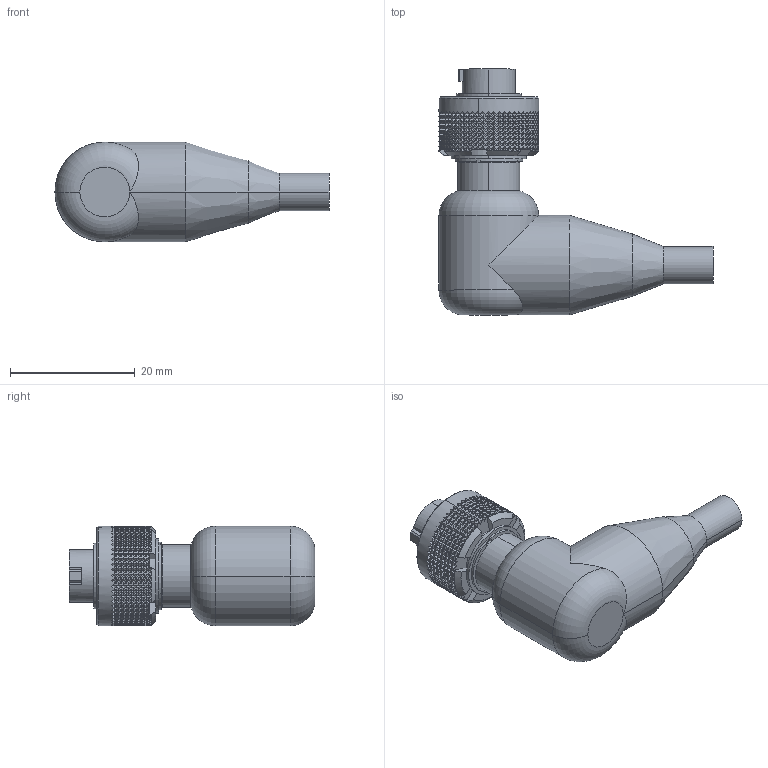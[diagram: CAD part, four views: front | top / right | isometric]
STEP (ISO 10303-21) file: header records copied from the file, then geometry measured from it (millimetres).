
FILE_DESCRIPTION (( 'STEP AP203' ), '1' );
FILE_NAME ('Mini Connector with 90 Deg mould.STEP', '2020-07-30T10:26:17', ( '' ), ( '' ), 'SwSTEP 2.0', 'SolidWorks 2018', '' );
FILE_SCHEMA (( 'CONFIG_CONTROL_DESIGN' ));
Length unit declared in the file: millimetre
Products named in the file (9): 90 Deg Mould; O-RING 8.5 x 1; CRE-MC1763-MDT; CRE-MC1768-MDT; CRE-MC1764-MDT; Part1^CRE-MC1783-MGA; Mini Connector with 90 Deg mould; Retaining Ring XVSM-10; CRE-MC1783-MGA
Assembly tree (9 placements, depth 3):
  Part1^CRE-MC1783-MGA
  Mini Connector with 90 Deg mould
    CRE-MC1783-MGA
      CRE-MC1763-MDT
      CRE-MC1764-MDT
      CRE-MC1768-MDT  x2
      Retaining Ring XVSM-10
      O-RING 8.5 x 1  x2
    90 Deg Mould
Bounding box: 44 x 39.49 x 16 mm (x, y, z)
Volume: 8984.1 mm3; surface area: 5374.7 mm2
Topology: 8 solids, 8 shells, 3794 faces, 8786 edges, 5823 vertices
Faces by surface type: plane 3704, cylinder 61, cone 14, torus 12, bspline 3
Entity records: 106893 total; most frequent: CARTESIAN_POINT 28967, ORIENTED_EDGE 17532, DIRECTION 13292, EDGE_CURVE 8766, VERTEX_POINT 5811, VECTOR 5260, LINE 5260, EDGE_LOOP 4607
